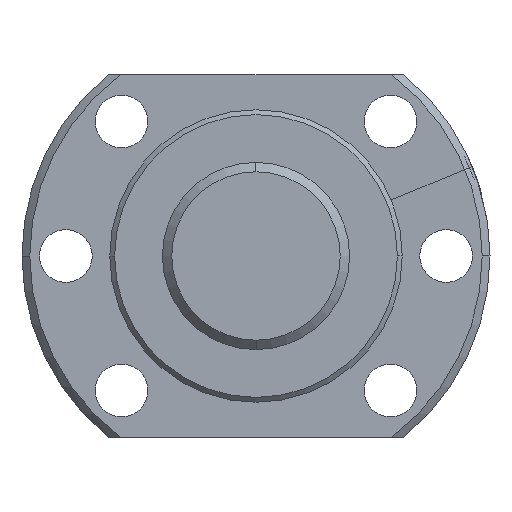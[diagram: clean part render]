
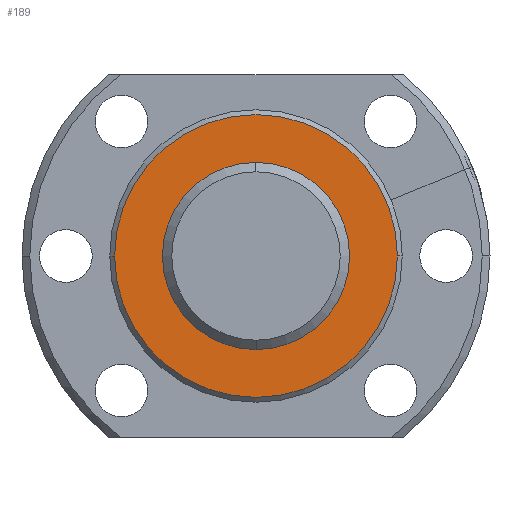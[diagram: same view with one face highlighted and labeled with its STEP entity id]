
A CAD part, left-side view. The second image highlights one B-rep face of the part: STEP entity #189.
In plain terms, the highlighted planar face has unit normal (-1, 0, 0).
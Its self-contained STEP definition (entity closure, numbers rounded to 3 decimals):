
#189 = ADVANCED_FACE( '', ( #345, #346 ), #347, .T. );
#345 = FACE_BOUND( '', #502, .T. );
#346 = FACE_OUTER_BOUND( '', #503, .T. );
#347 = PLANE( '', #504 );
#502 = EDGE_LOOP( '', ( #1009, #1010 ) );
#503 = EDGE_LOOP( '', ( #1011, #1012 ) );
#504 = AXIS2_PLACEMENT_3D( '', #1013, #1014, #1015 );
#1009 = ORIENTED_EDGE( '', *, *, #1159, .F. );
#1010 = ORIENTED_EDGE( '', *, *, #1085, .F. );
#1011 = ORIENTED_EDGE( '', *, *, #1057, .T. );
#1012 = ORIENTED_EDGE( '', *, *, #1170, .T. );
#1013 = CARTESIAN_POINT( '', ( 5., 20.083, 0. ) );
#1014 = DIRECTION( '', ( -1., 0., 0. ) );
#1015 = DIRECTION( '', ( 0., 1., 0. ) );
#1057 = EDGE_CURVE( '', #1234, #1238, #1240, .T. );
#1085 = EDGE_CURVE( '', #1290, #1286, #1292, .T. );
#1159 = EDGE_CURVE( '', #1286, #1290, #1413, .T. );
#1170 = EDGE_CURVE( '', #1238, #1234, #1424, .T. );
#1234 = VERTEX_POINT( '', #1502 );
#1238 = VERTEX_POINT( '', #1507 );
#1240 = CIRCLE( '', #1510, 24.167 );
#1286 = VERTEX_POINT( '', #1586 );
#1290 = VERTEX_POINT( '', #1591 );
#1292 = CIRCLE( '', #1594, 16. );
#1413 = CIRCLE( '', #1929, 16. );
#1424 = CIRCLE( '', #1940, 24.167 );
#1502 = CARTESIAN_POINT( '', ( 5., 24.167, 0. ) );
#1507 = CARTESIAN_POINT( '', ( 5., -24.167, 0. ) );
#1510 = AXIS2_PLACEMENT_3D( '', #2032, #2033, #2034 );
#1586 = CARTESIAN_POINT( '', ( 5., 16., 0. ) );
#1591 = CARTESIAN_POINT( '', ( 5., -16., 0. ) );
#1594 = AXIS2_PLACEMENT_3D( '', #2082, #2083, #2084 );
#1929 = AXIS2_PLACEMENT_3D( '', #2219, #2220, #2221 );
#1940 = AXIS2_PLACEMENT_3D( '', #2252, #2253, #2254 );
#2032 = CARTESIAN_POINT( '', ( 5., 0., 0. ) );
#2033 = DIRECTION( '', ( -1., 0., 0. ) );
#2034 = DIRECTION( '', ( 0., 1., 0. ) );
#2082 = CARTESIAN_POINT( '', ( 5., 0., 0. ) );
#2083 = DIRECTION( '', ( -1., 0., 0. ) );
#2084 = DIRECTION( '', ( 0., 1., 0. ) );
#2219 = CARTESIAN_POINT( '', ( 5., 0., 0. ) );
#2220 = DIRECTION( '', ( -1., 0., 0. ) );
#2221 = DIRECTION( '', ( 0., 1., 0. ) );
#2252 = CARTESIAN_POINT( '', ( 5., 0., 0. ) );
#2253 = DIRECTION( '', ( -1., 0., 0. ) );
#2254 = DIRECTION( '', ( 0., 1., 0. ) );
